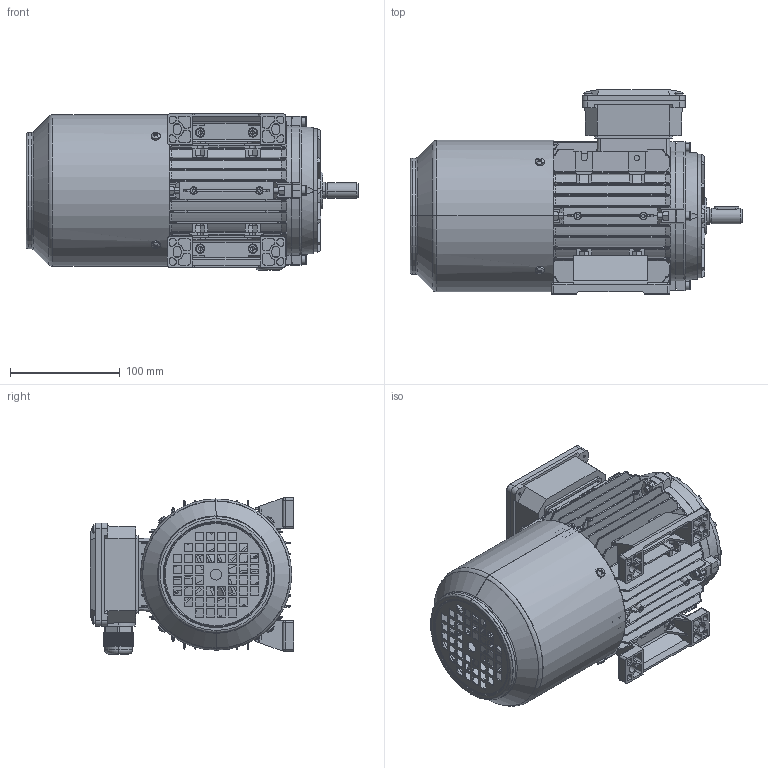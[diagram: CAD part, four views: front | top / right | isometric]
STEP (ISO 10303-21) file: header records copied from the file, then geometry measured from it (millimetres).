
FILE_DESCRIPTION (( 'STEP AP203' ), '1' );
FILE_NAME ('TB71 B3（风罩不带手柄孔）.STEP', '2021-10-20T07:05:24', ( '' ), ( '' ), 'SwSTEP 2.0', 'SolidWorks 2014', '' );
FILE_SCHEMA (( 'CONFIG_CONTROL_DESIGN' ));
Length unit declared in the file: millimetre
Products named in the file (17): Hexagon socket head cap screws GB_GB_FASTENER_SCREWS_HSHCS M5X20-N; MS63-71 陔諉盄碟釱; TB71 綴裔; TAN71 儂褲; Hexagon socket head cap screws GB_GB_FASTENER_SCREWS_HSHCS M5X25-N; TB71 B3（风罩不带手柄孔）; 80-100堤盄蹟杶; Hexagon socket head cap screws GB_GB_FASTENER_SCREWS_HSHCS M5X16-N; MS63-71 陔諉盄碟裔; 71怢宒瑞珔; TAN71 菁褐; Cross recessed thread forming screws GB_GB_CROSS_SCREWS_TYPE138 M4X10-N; TAN71 ヶ裔; Plain parallel keys_GB_CONNECTING_PIECE_KEYS_CSK 5X22; Hexagon nuts grade C GB_GB_FASTENER_NUT_SNC1 M5-N; TB71瑞欶(祥湍忒梟謂); TB71蛌粣
Assembly tree (45 placements, depth 2):
  TB71 B3（风罩不带手柄孔）
    TAN71 儂褲
    TAN71 菁褐  x2
    TB71蛌粣
    80-100堤盄蹟杶
    TAN71 ヶ裔
    MS63-71 陔諉盄碟釱
    MS63-71 陔諉盄碟裔
    Hexagon nuts grade C GB_GB_FASTENER_NUT_SNC1 M5-N  x12
    Hexagon socket head cap screws GB_GB_FASTENER_SCREWS_HSHCS M5X25-N  x8
    Cross recessed thread forming screws GB_GB_CROSS_SCREWS_TYPE138 M4X10-N  x8
    Hexagon socket head cap screws GB_GB_FASTENER_SCREWS_HSHCS M5X20-N
    Hexagon socket head cap screws GB_GB_FASTENER_SCREWS_HSHCS M5X16-N  x4
    Plain parallel keys_GB_CONNECTING_PIECE_KEYS_CSK 5X22
    TB71 綴裔
    71怢宒瑞珔
    TB71瑞欶(祥湍忒梟謂)
Bounding box: 303 x 186 x 142.6 mm (x, y, z)
Volume: 683781.4 mm3; surface area: 582470.1 mm2
Topology: 45 solids, 45 shells, 4564 faces, 11746 edges, 7317 vertices
Faces by surface type: plane 2197, cylinder 1199, bspline 534, cone 408, torus 190, sphere 36
Entity records: 134375 total; most frequent: CARTESIAN_POINT 42603, ORIENTED_EDGE 19826, DIRECTION 17203, EDGE_CURVE 9913, VERTEX_POINT 6203, AXIS2_PLACEMENT_3D 6046, VECTOR 5111, LINE 5111
